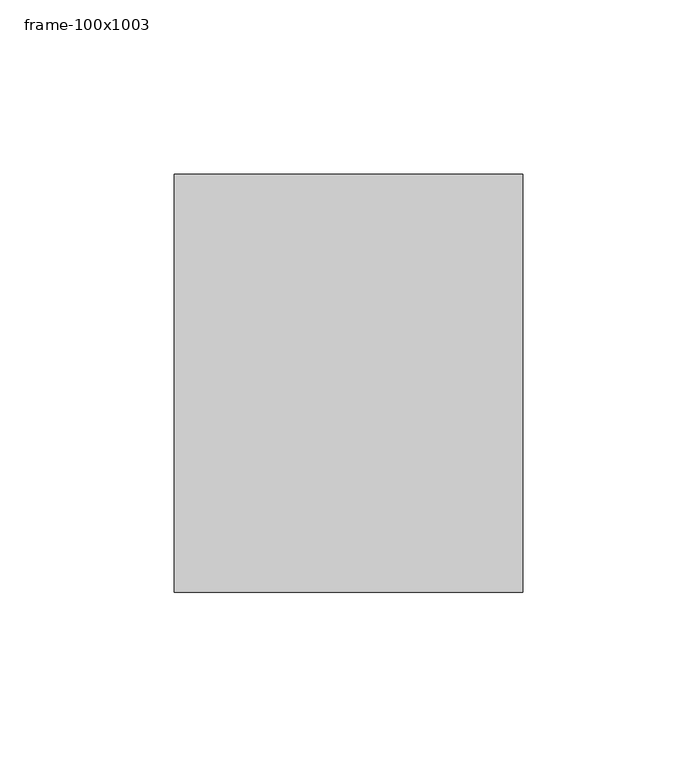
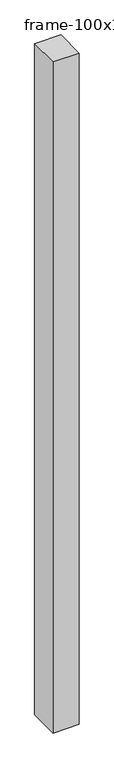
"""IFC4 building model written with IfcOpenShell, lengths in millimetres: member geometry, 長方形マリオン : frame-100x1003."""

from ifc_helpers import new_model, si_unit, frame, origin, place, context, project, spatial, polyline, outline, extrude, source, transform, mapped, element, save


def frame_100x1003_5722a33e(model_context):
    return source(origin(), model_context, "Body", "SweptSolid", [
        extrude(outline(polyline([(50.0, 60.0), (50.0, -60.0), (-50.0, -60.0), (-50.0, 60.0), (50.0, 60.0)])), frame((0.0, 0.0, -2700.0), z_axis=(0.0, 0.0, 1.0), x_axis=(1.0, 0.0, 0.0)), (0.0, 0.0, 1.0), 2700.0),
    ])


if __name__ == "__main__":
    model = new_model("IFC4")
    model_context = context("Model", 3, world=origin())
    ifc_project = project(units=[si_unit("LENGTHUNIT", "METRE", prefix="MILLI")], contexts=[model_context])
    site = spatial("IfcSite", under=ifc_project)
    building = spatial("IfcBuilding", under=site)
    placement = place(None, origin())
    frame_100x1003_shape = frame_100x1003_5722a33e(model_context)
    element("IfcMember", 1, ObjectType="長方形マリオン : frame-100x1003", at=placement, inside=building, context=model_context, shape_type="MappedRepresentation", body=[
        mapped(frame_100x1003_shape, transform((0.0, 0.0, 0.0), x_axis=(1.0, 0.0, 0.0), y_axis=(0.0, 1.0, 0.0), z_axis=(0.0, 0.0, 1.0))),
    ])
    save(model, "model.ifc")
